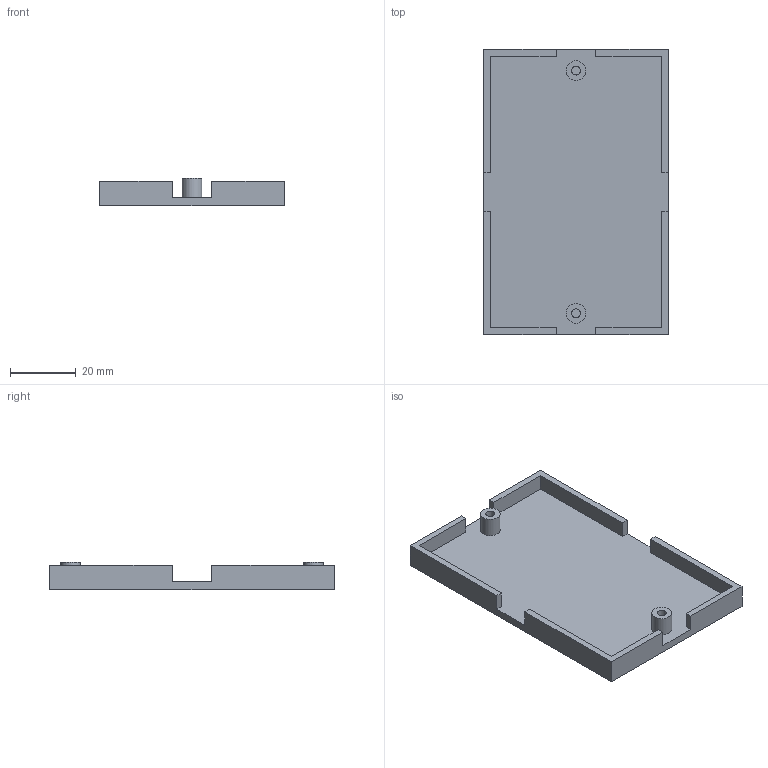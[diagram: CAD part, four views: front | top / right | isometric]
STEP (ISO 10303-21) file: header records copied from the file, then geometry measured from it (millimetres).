
FILE_DESCRIPTION(('Open CASCADE Model'),'2;1');
FILE_NAME('Open CASCADE Shape Model','2026-10-06T09:51:01',('Author'),( 'Open CASCADE'),'Open CASCADE STEP processor 7.9','Open CASCADE 7.9' ,'Unknown');
FILE_SCHEMA(('AUTOMOTIVE_DESIGN { 1 0 10303 214 1 1 1 1 }'));
Length unit declared in the file: millimetre
Products named in the file (1): Open CASCADE STEP translator 7.9 3
Bounding box: 56 x 86.48 x 8.4 mm (x, y, z)
Volume: 14192.3 mm3; surface area: 13053.7 mm2
Topology: 1 solids, 1 shells, 34 faces, 84 edges, 56 vertices
Faces by surface type: plane 30, cylinder 4
Full cylindrical faces by diameter (mm): 2.7 x2, 6 x2
Entity records: 2034 total; most frequent: CARTESIAN_POINT 407, DIRECTION 266, LINE 172, VECTOR 172, ORIENTED_EDGE 168, PCURVE 168, DEFINITIONAL_REPRESENTATION 168, EDGE_CURVE 84
